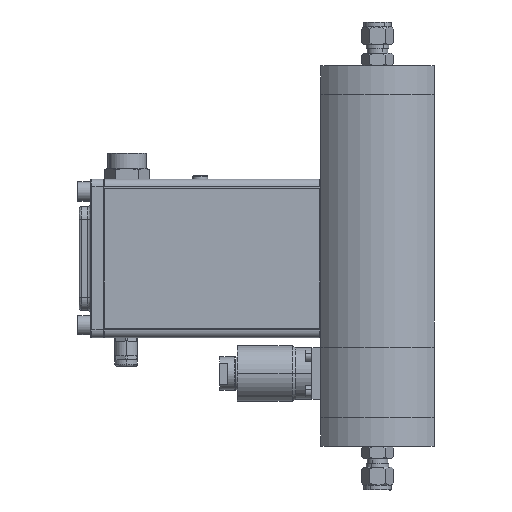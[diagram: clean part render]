
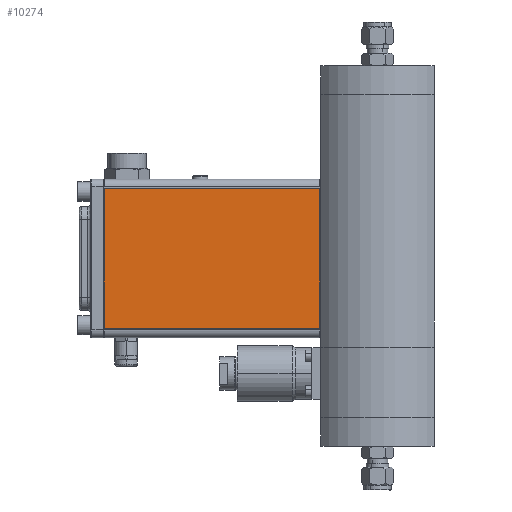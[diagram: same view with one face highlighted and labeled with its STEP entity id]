
A CAD part, left-side view. The second image highlights one B-rep face of the part: STEP entity #10274.
In plain terms, the highlighted planar face has unit normal (-1, 0, 0).
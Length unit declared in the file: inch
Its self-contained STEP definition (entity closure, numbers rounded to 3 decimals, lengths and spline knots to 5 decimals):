
#31 = DIRECTION ( 'NONE',  ( 0., 0., -1. ) ) ;
#121 = LINE ( 'NONE', #7574, #12999 ) ;
#199 = VERTEX_POINT ( 'NONE', #15034 ) ;
#443 = CARTESIAN_POINT ( 'NONE',  ( 9.06338, 6.65886, 12.06817 ) ) ;
#478 = LINE ( 'NONE', #4039, #11598 ) ;
#1095 = DIRECTION ( 'NONE',  ( 0., -1., 0. ) ) ;
#1172 = LINE ( 'NONE', #14943, #8328 ) ;
#1412 = FACE_OUTER_BOUND ( 'NONE', #12117, .T. ) ;
#2798 = DIRECTION ( 'NONE',  ( 0., 0., 1. ) ) ;
#2961 = VERTEX_POINT ( 'NONE', #8694 ) ;
#3293 = VERTEX_POINT ( 'NONE', #6077 ) ;
#3619 = VERTEX_POINT ( 'NONE', #14488 ) ;
#3799 = EDGE_CURVE ( 'NONE', #3619, #3293, #12835, .T. ) ;
#4039 = CARTESIAN_POINT ( 'NONE',  ( 9.06338, 6.65886, 13.76467 ) ) ;
#4729 = PLANE ( 'NONE',  #6266 ) ;
#5333 = DIRECTION ( 'NONE',  ( 0., -1., 0. ) ) ;
#6077 = CARTESIAN_POINT ( 'NONE',  ( 9.06338, 6.65886, 13.76467 ) ) ;
#6266 = AXIS2_PLACEMENT_3D ( 'NONE', #6350, #12192, #1095 ) ;
#6350 = CARTESIAN_POINT ( 'NONE',  ( 9.06338, 6.65886, 13.76467 ) ) ;
#7574 = CARTESIAN_POINT ( 'NONE',  ( 9.06338, 6.65886, 10.37167 ) ) ;
#8222 = ORIENTED_EDGE ( 'NONE', *, *, #3799, .F. ) ;
#8328 = VECTOR ( 'NONE', #31, 39.37008 ) ;
#8694 = CARTESIAN_POINT ( 'NONE',  ( 9.06338, 1.40886, 13.76467 ) ) ;
#8950 = EDGE_CURVE ( 'NONE', #3293, #2961, #478, .T. ) ;
#9032 = ORIENTED_EDGE ( 'NONE', *, *, #10337, .F. ) ;
#10274 = ADVANCED_FACE ( 'NONE', ( #1412 ), #4729, .F. ) ;
#10337 = EDGE_CURVE ( 'NONE', #2961, #199, #1172, .T. ) ;
#11598 = VECTOR ( 'NONE', #5333, 39.37008 ) ;
#12117 = EDGE_LOOP ( 'NONE', ( #8222, #13873, #9032, #13983 ) ) ;
#12192 = DIRECTION ( 'NONE',  ( 1., 0., 0. ) ) ;
#12633 = VECTOR ( 'NONE', #2798, 39.37008 ) ;
#12835 = LINE ( 'NONE', #443, #12633 ) ;
#12999 = VECTOR ( 'NONE', #13738, 39.37008 ) ;
#13738 = DIRECTION ( 'NONE',  ( 0., 1., 0. ) ) ;
#13856 = EDGE_CURVE ( 'NONE', #199, #3619, #121, .T. ) ;
#13873 = ORIENTED_EDGE ( 'NONE', *, *, #13856, .F. ) ;
#13983 = ORIENTED_EDGE ( 'NONE', *, *, #8950, .F. ) ;
#14488 = CARTESIAN_POINT ( 'NONE',  ( 9.06338, 6.65886, 10.37167 ) ) ;
#14943 = CARTESIAN_POINT ( 'NONE',  ( 9.06338, 1.40886, 12.06817 ) ) ;
#15034 = CARTESIAN_POINT ( 'NONE',  ( 9.06338, 1.40886, 10.37167 ) ) ;
